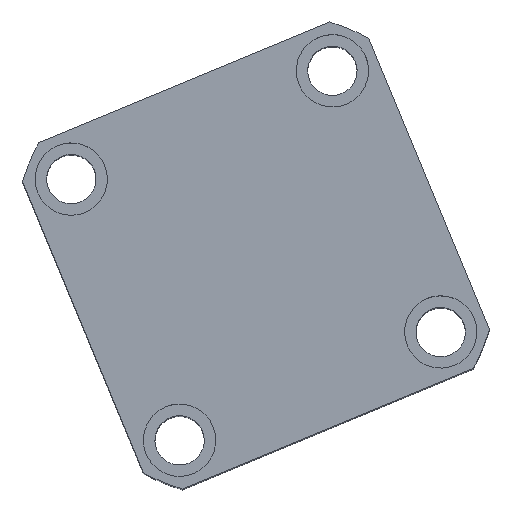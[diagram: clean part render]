
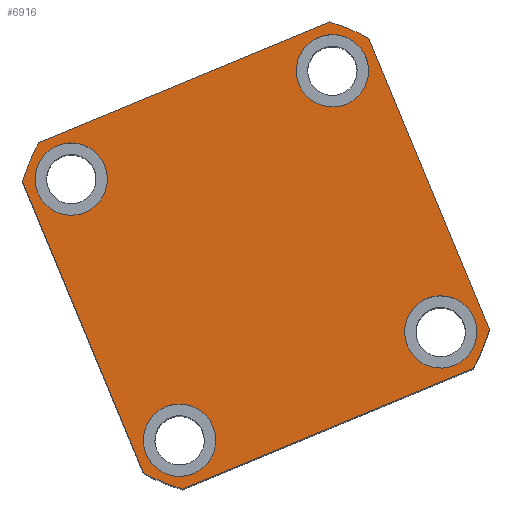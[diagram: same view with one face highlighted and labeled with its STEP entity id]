
A CAD part, top view. The second image highlights one B-rep face of the part: STEP entity #6916.
In plain terms, the highlighted planar face has unit normal (0, 0, 1) as drawn and (0, 0, -1) by its records, which use the part's own axes.
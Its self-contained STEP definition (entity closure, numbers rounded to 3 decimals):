
#217 = AXIS2_PLACEMENT_3D ( 'NONE', #15763, #6298, #17359 ) ;
#318 = EDGE_CURVE ( 'NONE', #8399, #15124, #3647, .T. ) ;
#673 = AXIS2_PLACEMENT_3D ( 'NONE', #6045, #17097, #7642 ) ;
#747 = FACE_BOUND ( 'NONE', #3620, .T. ) ;
#869 = CARTESIAN_POINT ( 'NONE',  ( -54., -43., 0. ) ) ;
#1070 = CARTESIAN_POINT ( 'NONE',  ( -54., 43., 0. ) ) ;
#1142 = CARTESIAN_POINT ( 'NONE',  ( -43., 43., 0. ) ) ;
#1280 = ORIENTED_EDGE ( 'NONE', *, *, #19827, .F. ) ;
#1403 = CARTESIAN_POINT ( 'NONE',  ( 54., -43., 0. ) ) ;
#1448 = CARTESIAN_POINT ( 'NONE',  ( 0., 0., 0. ) ) ;
#2016 = DIRECTION ( 'NONE',  ( 0., 0., 1. ) ) ;
#2257 = EDGE_CURVE ( 'NONE', #17419, #12378, #13744, .T. ) ;
#2407 = DIRECTION ( 'NONE',  ( 0., -1., 0. ) ) ;
#2516 = VERTEX_POINT ( 'NONE', #3149 ) ;
#2769 = ORIENTED_EDGE ( 'NONE', *, *, #7368, .F. ) ;
#2867 = DIRECTION ( 'NONE',  ( -1., 0., 0. ) ) ;
#2898 = CARTESIAN_POINT ( 'NONE',  ( 0., 0., 0. ) ) ;
#3029 = DIRECTION ( 'NONE',  ( 1., 0., 0. ) ) ;
#3149 = CARTESIAN_POINT ( 'NONE',  ( 47.971, 57., 0. ) ) ;
#3180 = AXIS2_PLACEMENT_3D ( 'NONE', #15249, #5786, #16835 ) ;
#3293 = CARTESIAN_POINT ( 'NONE',  ( 0., 0., 0. ) ) ;
#3523 = VERTEX_POINT ( 'NONE', #18394 ) ;
#3620 = EDGE_LOOP ( 'NONE', ( #4983, #9134 ) ) ;
#3647 = CIRCLE ( 'NONE', #4789, 11. ) ;
#3671 = AXIS2_PLACEMENT_3D ( 'NONE', #3293, #14357, #4880 ) ;
#3751 = EDGE_LOOP ( 'NONE', ( #1280, #9617 ) ) ;
#3892 = CIRCLE ( 'NONE', #7407, 11. ) ;
#4150 = EDGE_CURVE ( 'NONE', #2516, #12720, #19516, .T. ) ;
#4160 = EDGE_LOOP ( 'NONE', ( #13389, #17583 ) ) ;
#4347 = CARTESIAN_POINT ( 'NONE',  ( -47.971, 57., 0. ) ) ;
#4425 = FACE_OUTER_BOUND ( 'NONE', #7568, .T. ) ;
#4471 = DIRECTION ( 'NONE',  ( 1., 0., 0. ) ) ;
#4512 = CARTESIAN_POINT ( 'NONE',  ( -43., -43., 0. ) ) ;
#4561 = CARTESIAN_POINT ( 'NONE',  ( -57., 47.971, 0. ) ) ;
#4634 = EDGE_CURVE ( 'NONE', #12378, #17419, #13583, .T. ) ;
#4789 = AXIS2_PLACEMENT_3D ( 'NONE', #1142, #8962, #2867 ) ;
#4880 = DIRECTION ( 'NONE',  ( 1., 0., 0. ) ) ;
#4983 = ORIENTED_EDGE ( 'NONE', *, *, #8282, .F. ) ;
#5090 = AXIS2_PLACEMENT_3D ( 'NONE', #1448, #7735, #3029 ) ;
#5387 = CARTESIAN_POINT ( 'NONE',  ( 43., 43., 0. ) ) ;
#5402 = CIRCLE ( 'NONE', #15560, 11. ) ;
#5581 = CARTESIAN_POINT ( 'NONE',  ( -57., 57., 0. ) ) ;
#5786 = DIRECTION ( 'NONE',  ( 0., 0., 1. ) ) ;
#5984 = CARTESIAN_POINT ( 'NONE',  ( 43., -43., 0. ) ) ;
#6045 = CARTESIAN_POINT ( 'NONE',  ( 43., 43., 0. ) ) ;
#6105 = DIRECTION ( 'NONE',  ( -1., 0., 0. ) ) ;
#6298 = DIRECTION ( 'NONE',  ( 0., 0., -1. ) ) ;
#6456 = ORIENTED_EDGE ( 'NONE', *, *, #16466, .F. ) ;
#6916 = ADVANCED_FACE ( 'NONE', ( #747, #16540, #17037, #12809, #4425 ), #20336, .F. ) ;
#6941 = VECTOR ( 'NONE', #14082, 1000. ) ;
#6988 = ORIENTED_EDGE ( 'NONE', *, *, #13525, .F. ) ;
#6990 = DIRECTION ( 'NONE',  ( -1., 0., 0. ) ) ;
#7149 = AXIS2_PLACEMENT_3D ( 'NONE', #5387, #16430, #6990 ) ;
#7368 = EDGE_CURVE ( 'NONE', #15316, #10293, #10785, .T. ) ;
#7403 = CIRCLE ( 'NONE', #673, 11. ) ;
#7407 = AXIS2_PLACEMENT_3D ( 'NONE', #4512, #15570, #6105 ) ;
#7568 = EDGE_LOOP ( 'NONE', ( #14386, #18571, #6456, #10609, #19065, #2769, #6988, #11106 ) ) ;
#7582 = DIRECTION ( 'NONE',  ( -1., 0., 0. ) ) ;
#7642 = DIRECTION ( 'NONE',  ( -1., 0., 0. ) ) ;
#7735 = DIRECTION ( 'NONE',  ( 0., 0., 1. ) ) ;
#7761 = DIRECTION ( 'NONE',  ( 0., 0., -1. ) ) ;
#8094 = CARTESIAN_POINT ( 'NONE',  ( 32., 43., 0. ) ) ;
#8282 = EDGE_CURVE ( 'NONE', #18646, #8774, #5402, .T. ) ;
#8399 = VERTEX_POINT ( 'NONE', #12559 ) ;
#8477 = CARTESIAN_POINT ( 'NONE',  ( -57., 57., 0. ) ) ;
#8774 = VERTEX_POINT ( 'NONE', #15271 ) ;
#8962 = DIRECTION ( 'NONE',  ( 0., 0., -1. ) ) ;
#9045 = DIRECTION ( 'NONE',  ( 0., 0., -1. ) ) ;
#9134 = ORIENTED_EDGE ( 'NONE', *, *, #10256, .F. ) ;
#9617 = ORIENTED_EDGE ( 'NONE', *, *, #17709, .F. ) ;
#9619 = EDGE_CURVE ( 'NONE', #18122, #3523, #10510, .T. ) ;
#10118 = ORIENTED_EDGE ( 'NONE', *, *, #318, .F. ) ;
#10243 = AXIS2_PLACEMENT_3D ( 'NONE', #18553, #9045, #20129 ) ;
#10256 = EDGE_CURVE ( 'NONE', #8774, #18646, #3892, .T. ) ;
#10293 = VERTEX_POINT ( 'NONE', #20304 ) ;
#10510 = LINE ( 'NONE', #18413, #14282 ) ;
#10559 = CIRCLE ( 'NONE', #3180, 74.5 ) ;
#10609 = ORIENTED_EDGE ( 'NONE', *, *, #16288, .F. ) ;
#10785 = LINE ( 'NONE', #5581, #13562 ) ;
#10788 = CARTESIAN_POINT ( 'NONE',  ( 54., 43., 0. ) ) ;
#11013 = VERTEX_POINT ( 'NONE', #10788 ) ;
#11106 = ORIENTED_EDGE ( 'NONE', *, *, #4150, .F. ) ;
#11414 = CARTESIAN_POINT ( 'NONE',  ( 0., 0., 0. ) ) ;
#11777 = EDGE_LOOP ( 'NONE', ( #18088, #10118 ) ) ;
#12206 = AXIS2_PLACEMENT_3D ( 'NONE', #5984, #17034, #7582 ) ;
#12378 = VERTEX_POINT ( 'NONE', #1403 ) ;
#12449 = CARTESIAN_POINT ( 'NONE',  ( -57., -57., 0. ) ) ;
#12470 = EDGE_CURVE ( 'NONE', #10293, #16750, #19031, .T. ) ;
#12559 = CARTESIAN_POINT ( 'NONE',  ( -32., 43., 0. ) ) ;
#12720 = VERTEX_POINT ( 'NONE', #4347 ) ;
#12809 = FACE_BOUND ( 'NONE', #11777, .T. ) ;
#13047 = DIRECTION ( 'NONE',  ( 1., 0., 0. ) ) ;
#13080 = CIRCLE ( 'NONE', #7149, 11. ) ;
#13345 = DIRECTION ( 'NONE',  ( -1., 0., 0. ) ) ;
#13389 = ORIENTED_EDGE ( 'NONE', *, *, #2257, .F. ) ;
#13525 = EDGE_CURVE ( 'NONE', #12720, #15316, #10559, .T. ) ;
#13562 = VECTOR ( 'NONE', #2407, 1000. ) ;
#13583 = CIRCLE ( 'NONE', #217, 11. ) ;
#13744 = CIRCLE ( 'NONE', #12206, 11. ) ;
#13933 = DIRECTION ( 'NONE',  ( 0., 0., 1. ) ) ;
#14082 = DIRECTION ( 'NONE',  ( 1., 0., 0. ) ) ;
#14282 = VECTOR ( 'NONE', #18292, 1000. ) ;
#14357 = DIRECTION ( 'NONE',  ( 0., 0., 1. ) ) ;
#14386 = ORIENTED_EDGE ( 'NONE', *, *, #16190, .F. ) ;
#14466 = VERTEX_POINT ( 'NONE', #19560 ) ;
#14843 = CIRCLE ( 'NONE', #3671, 74.5 ) ;
#15124 = VERTEX_POINT ( 'NONE', #1070 ) ;
#15249 = CARTESIAN_POINT ( 'NONE',  ( 0., 0., 0. ) ) ;
#15271 = CARTESIAN_POINT ( 'NONE',  ( -32., -43., 0. ) ) ;
#15316 = VERTEX_POINT ( 'NONE', #4561 ) ;
#15333 = LINE ( 'NONE', #12449, #6941 ) ;
#15560 = AXIS2_PLACEMENT_3D ( 'NONE', #17218, #7761, #18800 ) ;
#15570 = DIRECTION ( 'NONE',  ( 0., 0., -1. ) ) ;
#15763 = CARTESIAN_POINT ( 'NONE',  ( 43., -43., 0. ) ) ;
#15828 = CIRCLE ( 'NONE', #19937, 74.5 ) ;
#16190 = EDGE_CURVE ( 'NONE', #3523, #2516, #15828, .T. ) ;
#16288 = EDGE_CURVE ( 'NONE', #16750, #14466, #15333, .T. ) ;
#16430 = DIRECTION ( 'NONE',  ( 0., 0., -1. ) ) ;
#16466 = EDGE_CURVE ( 'NONE', #14466, #18122, #14843, .T. ) ;
#16540 = FACE_BOUND ( 'NONE', #4160, .T. ) ;
#16750 = VERTEX_POINT ( 'NONE', #18652 ) ;
#16835 = DIRECTION ( 'NONE',  ( 1., 0., 0. ) ) ;
#17034 = DIRECTION ( 'NONE',  ( 0., 0., -1. ) ) ;
#17037 = FACE_BOUND ( 'NONE', #3751, .T. ) ;
#17069 = AXIS2_PLACEMENT_3D ( 'NONE', #11414, #2016, #13047 ) ;
#17097 = DIRECTION ( 'NONE',  ( 0., 0., -1. ) ) ;
#17218 = CARTESIAN_POINT ( 'NONE',  ( -43., -43., 0. ) ) ;
#17359 = DIRECTION ( 'NONE',  ( -1., 0., 0. ) ) ;
#17408 = CARTESIAN_POINT ( 'NONE',  ( 32., -43., 0. ) ) ;
#17419 = VERTEX_POINT ( 'NONE', #17408 ) ;
#17583 = ORIENTED_EDGE ( 'NONE', *, *, #4634, .F. ) ;
#17709 = EDGE_CURVE ( 'NONE', #11013, #18867, #13080, .T. ) ;
#18044 = EDGE_CURVE ( 'NONE', #15124, #8399, #19990, .T. ) ;
#18088 = ORIENTED_EDGE ( 'NONE', *, *, #18044, .F. ) ;
#18122 = VERTEX_POINT ( 'NONE', #18621 ) ;
#18292 = DIRECTION ( 'NONE',  ( 0., 1., 0. ) ) ;
#18394 = CARTESIAN_POINT ( 'NONE',  ( 57., 47.971, 0. ) ) ;
#18413 = CARTESIAN_POINT ( 'NONE',  ( 57., 57., 0. ) ) ;
#18529 = VECTOR ( 'NONE', #13345, 1000. ) ;
#18553 = CARTESIAN_POINT ( 'NONE',  ( -43., 43., 0. ) ) ;
#18571 = ORIENTED_EDGE ( 'NONE', *, *, #9619, .F. ) ;
#18621 = CARTESIAN_POINT ( 'NONE',  ( 57., -47.971, 0. ) ) ;
#18646 = VERTEX_POINT ( 'NONE', #869 ) ;
#18652 = CARTESIAN_POINT ( 'NONE',  ( -47.971, -57., 0. ) ) ;
#18800 = DIRECTION ( 'NONE',  ( -1., 0., 0. ) ) ;
#18867 = VERTEX_POINT ( 'NONE', #8094 ) ;
#19031 = CIRCLE ( 'NONE', #17069, 74.5 ) ;
#19065 = ORIENTED_EDGE ( 'NONE', *, *, #12470, .F. ) ;
#19516 = LINE ( 'NONE', #8477, #18529 ) ;
#19560 = CARTESIAN_POINT ( 'NONE',  ( 47.971, -57., 0. ) ) ;
#19827 = EDGE_CURVE ( 'NONE', #18867, #11013, #7403, .T. ) ;
#19937 = AXIS2_PLACEMENT_3D ( 'NONE', #2898, #13933, #4471 ) ;
#19990 = CIRCLE ( 'NONE', #10243, 11. ) ;
#20129 = DIRECTION ( 'NONE',  ( -1., 0., 0. ) ) ;
#20304 = CARTESIAN_POINT ( 'NONE',  ( -57., -47.971, 0. ) ) ;
#20336 = PLANE ( 'NONE',  #5090 ) ;
